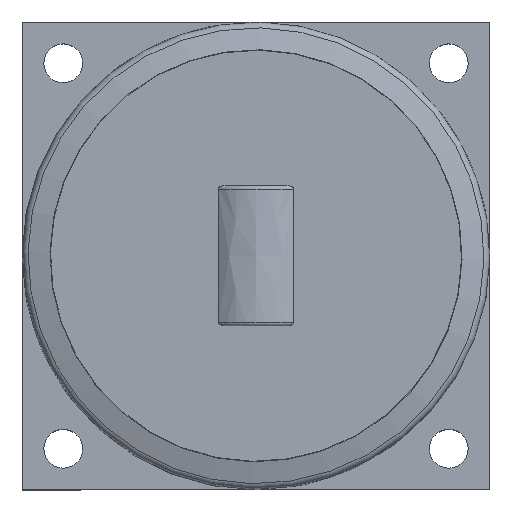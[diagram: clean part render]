
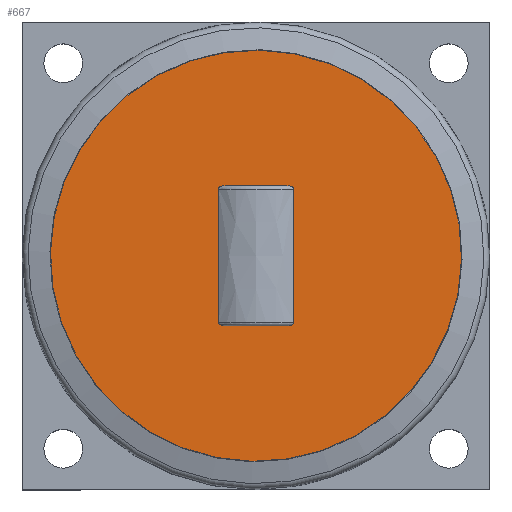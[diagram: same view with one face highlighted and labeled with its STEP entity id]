
A CAD part, top view. The second image highlights one B-rep face of the part: STEP entity #667.
In plain terms, the highlighted planar face has unit normal (0, 0, 1).
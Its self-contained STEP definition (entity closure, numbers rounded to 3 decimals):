
#399=CARTESIAN_POINT('',(-169.581,37.864,72.181));
#400=VERTEX_POINT('',#399);
#401=CARTESIAN_POINT('',(-136.546,37.864,72.181));
#402=VERTEX_POINT('',#401);
#403=CARTESIAN_POINT('',(-169.581,37.864,72.181));
#404=DIRECTION('',(1.0,0.0,0.0));
#405=VECTOR('',#404,33.035);
#406=LINE('',#403,#405);
#407=EDGE_CURVE('',#400,#402,#406,.T.);
#436=CARTESIAN_POINT('',(-132.936,35.911,72.181));
#437=VERTEX_POINT('',#436);
#438=CARTESIAN_POINT('',(-132.936,-35.183,72.181));
#439=VERTEX_POINT('',#438);
#440=CARTESIAN_POINT('',(-132.936,35.911,72.181));
#441=CARTESIAN_POINT('',(-132.444,23.654,72.181));
#442=CARTESIAN_POINT('',(-132.231,11.606,72.181));
#443=CARTESIAN_POINT('',(-132.231,-10.878,72.181));
#444=CARTESIAN_POINT('',(-132.444,-22.926,72.181));
#445=CARTESIAN_POINT('',(-132.936,-35.183,72.181));
#446=B_SPLINE_CURVE_WITH_KNOTS('',3,(#440,#441,#442,#443,#444,#445),.UNSPECIFIED.,.F.,.U.,(4,2,4),(38.51,41.883,45.256),.UNSPECIFIED.);
#447=EDGE_CURVE('',#437,#439,#446,.T.);
#449=CARTESIAN_POINT('',(-173.191,35.911,72.181));
#450=VERTEX_POINT('',#449);
#458=CARTESIAN_POINT('',(-173.191,-35.183,72.181));
#459=VERTEX_POINT('',#458);
#460=CARTESIAN_POINT('',(-173.191,-35.183,72.181));
#461=CARTESIAN_POINT('',(-173.683,-22.926,72.181));
#462=CARTESIAN_POINT('',(-173.896,-10.878,72.181));
#463=CARTESIAN_POINT('',(-173.896,11.606,72.181));
#464=CARTESIAN_POINT('',(-173.683,23.654,72.181));
#465=CARTESIAN_POINT('',(-173.191,35.911,72.181));
#466=B_SPLINE_CURVE_WITH_KNOTS('',3,(#460,#461,#462,#463,#464,#465),.UNSPECIFIED.,.F.,.U.,(4,2,4),(10.588,13.961,17.334),.UNSPECIFIED.);
#467=EDGE_CURVE('',#459,#450,#466,.T.);
#484=CARTESIAN_POINT('',(-136.546,37.864,72.181));
#485=CARTESIAN_POINT('',(-135.989,37.864,72.181));
#486=CARTESIAN_POINT('',(-135.326,37.788,72.181));
#487=CARTESIAN_POINT('',(-134.421,37.522,72.181));
#488=CARTESIAN_POINT('',(-133.995,37.337,72.181));
#489=CARTESIAN_POINT('',(-133.462,36.951,72.181));
#490=CARTESIAN_POINT('',(-133.233,36.72,72.181));
#491=CARTESIAN_POINT('',(-133.01,36.317,72.181));
#492=CARTESIAN_POINT('',(-132.944,36.104,72.181));
#493=CARTESIAN_POINT('',(-132.936,35.911,72.181));
#494=B_SPLINE_CURVE_WITH_KNOTS('',3,(#484,#485,#486,#487,#488,#489,#490,#491,#492,#493),.UNSPECIFIED.,.F.,.U.,(4,2,2,2,4),(1.389,1.556,1.672,1.753,1.81),.UNSPECIFIED.);
#495=EDGE_CURVE('',#402,#437,#494,.T.);
#498=CARTESIAN_POINT('',(-173.191,35.911,72.181));
#499=CARTESIAN_POINT('',(-173.183,36.104,72.181));
#500=CARTESIAN_POINT('',(-173.117,36.317,72.181));
#501=CARTESIAN_POINT('',(-172.894,36.72,72.181));
#502=CARTESIAN_POINT('',(-172.665,36.951,72.181));
#503=CARTESIAN_POINT('',(-172.132,37.337,72.181));
#504=CARTESIAN_POINT('',(-171.706,37.522,72.181));
#505=CARTESIAN_POINT('',(-170.801,37.788,72.181));
#506=CARTESIAN_POINT('',(-170.138,37.864,72.181));
#507=CARTESIAN_POINT('',(-169.581,37.864,72.181));
#508=B_SPLINE_CURVE_WITH_KNOTS('',3,(#498,#499,#500,#501,#502,#503,#504,#505,#506,#507),.UNSPECIFIED.,.F.,.U.,(4,2,2,2,4),(0.005,0.061,0.143,0.259,0.426),.UNSPECIFIED.);
#509=EDGE_CURVE('',#450,#400,#508,.T.);
#520=CARTESIAN_POINT('',(-136.546,-37.136,72.181));
#521=VERTEX_POINT('',#520);
#522=CARTESIAN_POINT('',(-169.581,-37.136,72.181));
#523=VERTEX_POINT('',#522);
#524=CARTESIAN_POINT('',(-136.546,-37.136,72.181));
#525=DIRECTION('',(-1.0,0.0,0.0));
#526=VECTOR('',#525,33.035);
#527=LINE('',#524,#526);
#528=EDGE_CURVE('',#521,#523,#527,.T.);
#545=CARTESIAN_POINT('',(-132.936,-35.183,72.181));
#546=CARTESIAN_POINT('',(-132.944,-35.376,72.181));
#547=CARTESIAN_POINT('',(-133.01,-35.589,72.181));
#548=CARTESIAN_POINT('',(-133.233,-35.991,72.181));
#549=CARTESIAN_POINT('',(-133.462,-36.223,72.181));
#550=CARTESIAN_POINT('',(-133.995,-36.609,72.181));
#551=CARTESIAN_POINT('',(-134.421,-36.794,72.181));
#552=CARTESIAN_POINT('',(-135.326,-37.06,72.181));
#553=CARTESIAN_POINT('',(-135.989,-37.136,72.181));
#554=CARTESIAN_POINT('',(-136.546,-37.136,72.181));
#555=B_SPLINE_CURVE_WITH_KNOTS('',3,(#545,#546,#547,#548,#549,#550,#551,#552,#553,#554),.UNSPECIFIED.,.F.,.U.,(4,2,2,2,4),(0.005,0.061,0.143,0.259,0.426),.UNSPECIFIED.);
#556=EDGE_CURVE('',#439,#521,#555,.T.);
#559=CARTESIAN_POINT('',(-169.581,-37.136,72.181));
#560=CARTESIAN_POINT('',(-170.138,-37.136,72.181));
#561=CARTESIAN_POINT('',(-170.801,-37.06,72.181));
#562=CARTESIAN_POINT('',(-171.706,-36.794,72.181));
#563=CARTESIAN_POINT('',(-172.132,-36.609,72.181));
#564=CARTESIAN_POINT('',(-172.665,-36.223,72.181));
#565=CARTESIAN_POINT('',(-172.894,-35.991,72.181));
#566=CARTESIAN_POINT('',(-173.117,-35.589,72.181));
#567=CARTESIAN_POINT('',(-173.183,-35.376,72.181));
#568=CARTESIAN_POINT('',(-173.191,-35.183,72.181));
#569=B_SPLINE_CURVE_WITH_KNOTS('',3,(#559,#560,#561,#562,#563,#564,#565,#566,#567,#568),.UNSPECIFIED.,.F.,.U.,(4,2,2,2,4),(1.387,1.554,1.67,1.752,1.808),.UNSPECIFIED.);
#570=EDGE_CURVE('',#523,#459,#569,.T.);
#637=CARTESIAN_POINT('',(-50.58,-39.237,72.181));
#638=VERTEX_POINT('',#637);
#639=CARTESIAN_POINT('',(-153.063,0.364,72.181));
#640=DIRECTION('',(0.,0.,-1.0));
#641=DIRECTION('',(-0.933,0.36,0.));
#642=AXIS2_PLACEMENT_3D('',#639,#640,#641);
#643=CIRCLE('',#642,109.868);
#644=EDGE_CURVE('',#638,#638,#643,.T.);
#649=CARTESIAN_POINT('',(-59.319,-35.86,72.181));
#650=DIRECTION('',(0.,0.,1.0));
#651=DIRECTION('',(-0.36,-0.933,0.));
#652=AXIS2_PLACEMENT_3D('',#649,#650,#651);
#653=PLANE('',#652);
#654=ORIENTED_EDGE('',*,*,#644,.F.);
#655=EDGE_LOOP('',(#654));
#656=FACE_OUTER_BOUND('',#655,.T.);
#657=ORIENTED_EDGE('',*,*,#509,.T.);
#658=ORIENTED_EDGE('',*,*,#407,.T.);
#659=ORIENTED_EDGE('',*,*,#495,.T.);
#660=ORIENTED_EDGE('',*,*,#447,.T.);
#661=ORIENTED_EDGE('',*,*,#556,.T.);
#662=ORIENTED_EDGE('',*,*,#528,.T.);
#663=ORIENTED_EDGE('',*,*,#570,.T.);
#664=ORIENTED_EDGE('',*,*,#467,.T.);
#665=EDGE_LOOP('',(#657,#658,#659,#660,#661,#662,#663,#664));
#666=FACE_BOUND('',#665,.T.);
#667=ADVANCED_FACE('',(#656,#666),#653,.T.);
